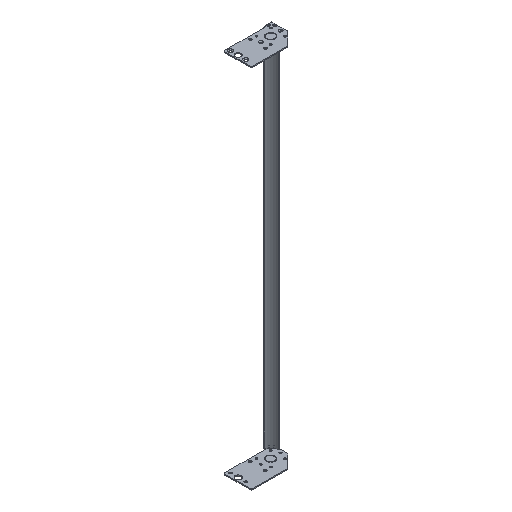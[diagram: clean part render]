
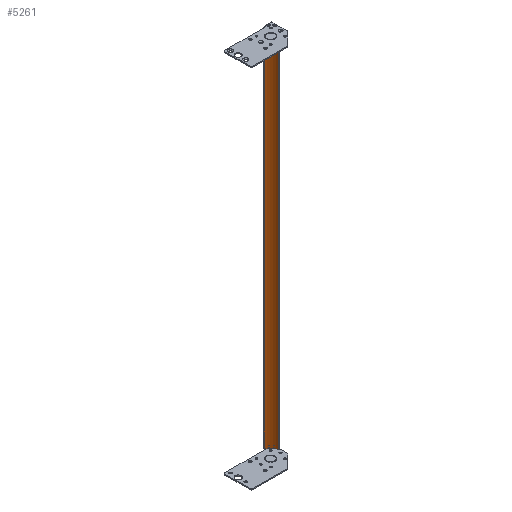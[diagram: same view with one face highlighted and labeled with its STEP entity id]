
A CAD part, isometric view. The second image highlights one B-rep face of the part: STEP entity #5261.
In plain terms, the highlighted cylindrical face has radius 40.64 mm (diameter 81.28 mm), a partial arc.
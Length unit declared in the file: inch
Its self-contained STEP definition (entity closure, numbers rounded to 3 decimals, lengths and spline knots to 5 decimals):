
#4923=CARTESIAN_POINT('',(-1.63,-1.52,-23.118));
#4924=DIRECTION('',(0.,0.,1.));
#4925=DIRECTION('',(0.946,0.325,0.));
#4926=AXIS2_PLACEMENT_3D('',#4923,#4924,#4925);
#4974=DIRECTION('',(0.,0.,1.));
#4975=VECTOR('',#4974,46.236);
#4976=CARTESIAN_POINT('',(-0.98126,-0.05742,-23.118));
#4977=LINE('',#4976,#4975);
#4993=CARTESIAN_POINT('',(-1.63,-1.52,23.118));
#4994=DIRECTION('',(0.,0.,-1.));
#4995=DIRECTION('',(0.405,0.914,0.));
#4996=AXIS2_PLACEMENT_3D('',#4993,#4994,#4995);
#5039=DIRECTION('',(0.,0.,1.));
#5040=VECTOR('',#5039,46.236);
#5041=CARTESIAN_POINT('',(-0.11675,-1.00032,-23.118));
#5042=LINE('',#5041,#5040);
#5077=CARTESIAN_POINT('',(-0.11675,-1.00032,-23.118));
#5078=VERTEX_POINT('',#5077);
#5079=CARTESIAN_POINT('',(-0.98126,-0.05742,-23.118));
#5081=VERTEX_POINT('',#5079);
#5089=CARTESIAN_POINT('',(-0.11675,-1.00032,23.118));
#5090=VERTEX_POINT('',#5089);
#5099=CARTESIAN_POINT('',(-0.98126,-0.05742,23.118));
#5100=VERTEX_POINT('',#5099);
#5250=CARTESIAN_POINT('',(-1.63,-1.52,23.118));
#5251=DIRECTION('',(0.,0.,-1.));
#5252=DIRECTION('',(-1.,0.,0.));
#5253=AXIS2_PLACEMENT_3D('',#5250,#5251,#5252);
#5254=CYLINDRICAL_SURFACE('',#5253,1.6);
#5255=ORIENTED_EDGE('',*,*,#5128,.T.);
#5256=ORIENTED_EDGE('',*,*,#5173,.T.);
#5257=ORIENTED_EDGE('',*,*,#5193,.T.);
#5258=ORIENTED_EDGE('',*,*,#5243,.F.);
#5259=EDGE_LOOP('',(#5255,#5256,#5257,#5258));
#5260=FACE_OUTER_BOUND('',#5259,.F.);
#4927=CIRCLE('',#4926,1.6);
#4997=CIRCLE('',#4996,1.6);
#5128=EDGE_CURVE('',#5078,#5081,#4927,.T.);
#5173=EDGE_CURVE('',#5081,#5100,#4977,.T.);
#5193=EDGE_CURVE('',#5100,#5090,#4997,.T.);
#5243=EDGE_CURVE('',#5078,#5090,#5042,.T.);
#5261=ADVANCED_FACE('',(#5260),#5254,.F.);
